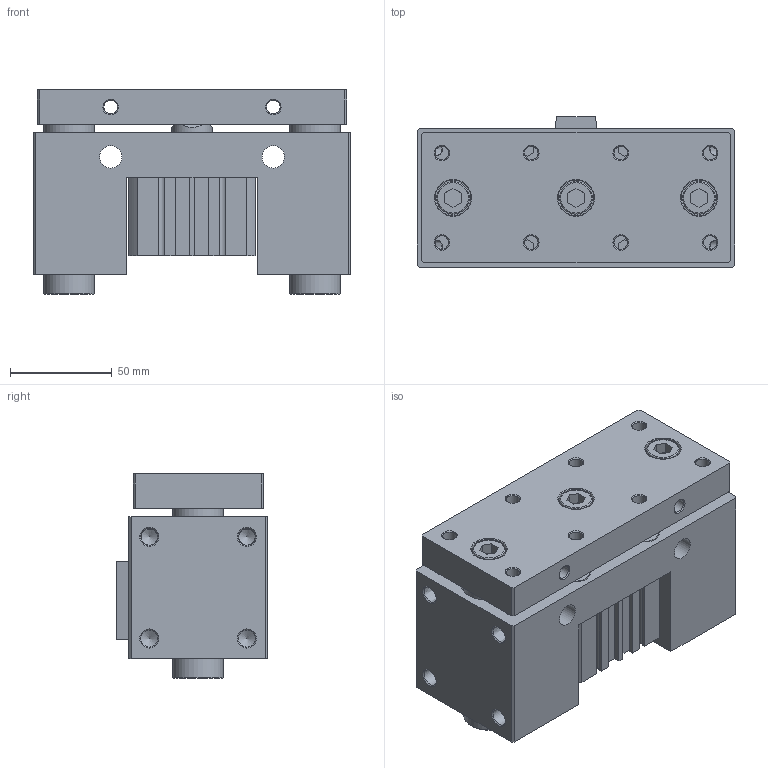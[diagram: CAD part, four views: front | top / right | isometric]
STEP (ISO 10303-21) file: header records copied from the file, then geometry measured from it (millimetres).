
FILE_DESCRIPTION((''),'2;1');
FILE_NAME('I:\3D電子目錄\氣缸\JCB\JCB\JCB50\JCB50x10.stp','2007-08-30T15:53:11',('Administrator'),(''),'Autodesk Inventor 11','Autodesk Inventor 11','');
FILE_SCHEMA(('AUTOMOTIVE_DESIGN { 1 0 10303 214 1 1 1 1 }'));
Length unit declared in the file: millimetre
Products named in the file (1): JCB50
Bounding box: 156 x 74 x 100.5 mm (x, y, z)
Volume: 781242.6 mm3; surface area: 150052.8 mm2
Topology: 3 solids, 3 shells, 328 faces, 786 edges, 510 vertices
Faces by surface type: plane 190, cylinder 58, cone 45, bspline 31, torus 4
Full cylindrical faces by diameter (mm): 2.7 x2, 6.8 x4, 8.376 x4, 11 x8, 13 x4, 14 x4, 16 x3, 17.5 x3, 20 x1, 21 x1, 25 x2, 28 x2, 37 x1, 38 x1, 52 x4, 55 x2
Entity records: 9390 total; most frequent: CARTESIAN_POINT 2294, DIRECTION 1434, ORIENTED_EDGE 1264, EDGE_CURVE 632, EDGE_LOOP 536, AXIS2_PLACEMENT_3D 512, VERTEX_POINT 480, VECTOR 410
